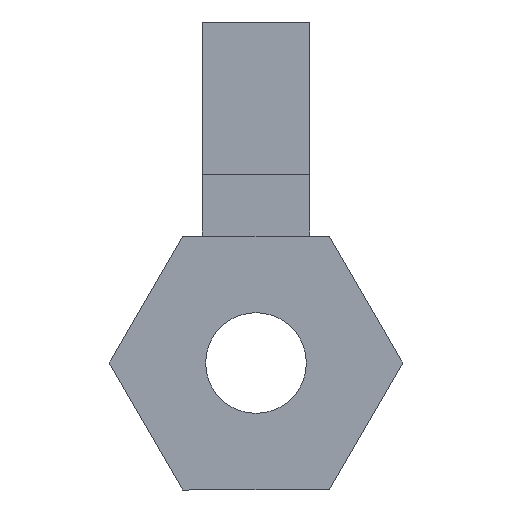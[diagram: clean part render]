
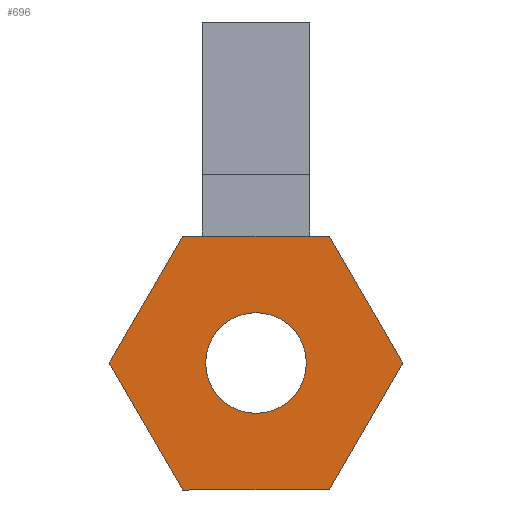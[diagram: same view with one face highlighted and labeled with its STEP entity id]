
A CAD part, left-side view. The second image highlights one B-rep face of the part: STEP entity #696.
In plain terms, the highlighted planar face has unit normal (-1, 0, 0).
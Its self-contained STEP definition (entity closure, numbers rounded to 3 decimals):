
#32 = PLANE('',#33);
#33 = AXIS2_PLACEMENT_3D('',#34,#35,#36);
#34 = CARTESIAN_POINT('',(0.,0.451,0.782));
#35 = DIRECTION('',(0.,0.,1.));
#36 = DIRECTION('',(0.,-1.,0.));
#141 = VERTEX_POINT('',#142);
#142 = CARTESIAN_POINT('',(0.,0.677,0.782));
#156 = PLANE('',#157);
#157 = AXIS2_PLACEMENT_3D('',#158,#159,#160);
#158 = CARTESIAN_POINT('',(0.,0.79,0.587));
#159 = DIRECTION('',(0.,0.866,0.5));
#160 = DIRECTION('',(0.,-0.5,0.866));
#168 = EDGE_CURVE('',#169,#141,#171,.T.);
#169 = VERTEX_POINT('',#170);
#170 = CARTESIAN_POINT('',(0.,0.226,0.782));
#171 = SURFACE_CURVE('',#172,(#176,#183),.PCURVE_S1.);
#172 = LINE('',#173,#174);
#173 = CARTESIAN_POINT('',(0.,0.226,0.782));
#174 = VECTOR('',#175,1.);
#175 = DIRECTION('',(0.,1.,0.));
#176 = PCURVE('',#32,#177);
#177 = DEFINITIONAL_REPRESENTATION('',(#178),#182);
#178 = LINE('',#179,#180);
#179 = CARTESIAN_POINT('',(0.226,0.));
#180 = VECTOR('',#181,1.);
#181 = DIRECTION('',(-1.,0.));
#182 = ( GEOMETRIC_REPRESENTATION_CONTEXT(2) 
PARAMETRIC_REPRESENTATION_CONTEXT() REPRESENTATION_CONTEXT('2D SPACE',''
  ) );
#183 = PCURVE('',#184,#189);
#184 = PLANE('',#185);
#185 = AXIS2_PLACEMENT_3D('',#186,#187,#188);
#186 = CARTESIAN_POINT('',(0.,0.451,0.391));
#187 = DIRECTION('',(1.,0.,0.));
#188 = DIRECTION('',(0.,0.,-1.));
#189 = DEFINITIONAL_REPRESENTATION('',(#190),#194);
#190 = LINE('',#191,#192);
#191 = CARTESIAN_POINT('',(-0.391,-0.226));
#192 = VECTOR('',#193,1.);
#193 = DIRECTION('',(0.,1.));
#194 = ( GEOMETRIC_REPRESENTATION_CONTEXT(2) 
PARAMETRIC_REPRESENTATION_CONTEXT() REPRESENTATION_CONTEXT('2D SPACE',''
  ) );
#212 = PLANE('',#213);
#213 = AXIS2_PLACEMENT_3D('',#214,#215,#216);
#214 = CARTESIAN_POINT('',(0.,0.113,0.587));
#215 = DIRECTION('',(0.,-0.866,0.5));
#216 = DIRECTION('',(0.,-0.5,-0.866));
#248 = EDGE_CURVE('',#249,#251,#253,.T.);
#249 = VERTEX_POINT('',#250);
#250 = CARTESIAN_POINT('',(0.,0.606,0.391));
#251 = VERTEX_POINT('',#252);
#252 = CARTESIAN_POINT('',(0.,0.296,0.391));
#253 = SURFACE_CURVE('',#254,(#259,#271),.PCURVE_S1.);
#254 = CIRCLE('',#255,0.155);
#255 = AXIS2_PLACEMENT_3D('',#256,#257,#258);
#256 = CARTESIAN_POINT('',(0.,0.451,0.391));
#257 = DIRECTION('',(1.,0.,0.));
#258 = DIRECTION('',(0.,-1.,0.));
#259 = PCURVE('',#260,#265);
#260 = CYLINDRICAL_SURFACE('',#261,0.155);
#261 = AXIS2_PLACEMENT_3D('',#262,#263,#264);
#262 = CARTESIAN_POINT('',(1.7,0.451,0.391));
#263 = DIRECTION('',(-1.,0.,0.));
#264 = DIRECTION('',(0.,-1.,0.));
#265 = DEFINITIONAL_REPRESENTATION('',(#266),#270);
#266 = LINE('',#267,#268);
#267 = CARTESIAN_POINT('',(6.283,1.7));
#268 = VECTOR('',#269,1.);
#269 = DIRECTION('',(-1.,0.));
#270 = ( GEOMETRIC_REPRESENTATION_CONTEXT(2) 
PARAMETRIC_REPRESENTATION_CONTEXT() REPRESENTATION_CONTEXT('2D SPACE',''
  ) );
#271 = PCURVE('',#184,#272);
#272 = DEFINITIONAL_REPRESENTATION('',(#273),#277);
#273 = CIRCLE('',#274,0.155);
#274 = AXIS2_PLACEMENT_2D('',#275,#276);
#275 = CARTESIAN_POINT('',(0.,0.));
#276 = DIRECTION('',(0.,-1.));
#277 = ( GEOMETRIC_REPRESENTATION_CONTEXT(2) 
PARAMETRIC_REPRESENTATION_CONTEXT() REPRESENTATION_CONTEXT('2D SPACE',''
  ) );
#329 = EDGE_CURVE('',#251,#249,#330,.T.);
#330 = SURFACE_CURVE('',#331,(#336,#343),.PCURVE_S1.);
#331 = CIRCLE('',#332,0.155);
#332 = AXIS2_PLACEMENT_3D('',#333,#334,#335);
#333 = CARTESIAN_POINT('',(0.,0.451,0.391));
#334 = DIRECTION('',(1.,0.,0.));
#335 = DIRECTION('',(0.,-1.,0.));
#336 = PCURVE('',#260,#337);
#337 = DEFINITIONAL_REPRESENTATION('',(#338),#342);
#338 = LINE('',#339,#340);
#339 = CARTESIAN_POINT('',(12.566,1.7));
#340 = VECTOR('',#341,1.);
#341 = DIRECTION('',(-1.,0.));
#342 = ( GEOMETRIC_REPRESENTATION_CONTEXT(2) 
PARAMETRIC_REPRESENTATION_CONTEXT() REPRESENTATION_CONTEXT('2D SPACE',''
  ) );
#343 = PCURVE('',#184,#344);
#344 = DEFINITIONAL_REPRESENTATION('',(#345),#349);
#345 = CIRCLE('',#346,0.155);
#346 = AXIS2_PLACEMENT_2D('',#347,#348);
#347 = CARTESIAN_POINT('',(0.,0.));
#348 = DIRECTION('',(0.,-1.));
#349 = ( GEOMETRIC_REPRESENTATION_CONTEXT(2) 
PARAMETRIC_REPRESENTATION_CONTEXT() REPRESENTATION_CONTEXT('2D SPACE',''
  ) );
#378 = EDGE_CURVE('',#379,#169,#381,.T.);
#379 = VERTEX_POINT('',#380);
#380 = CARTESIAN_POINT('',(0.,0.,0.391));
#381 = SURFACE_CURVE('',#382,(#386,#393),.PCURVE_S1.);
#382 = LINE('',#383,#384);
#383 = CARTESIAN_POINT('',(0.,0.,0.391));
#384 = VECTOR('',#385,1.);
#385 = DIRECTION('',(0.,0.5,0.866));
#386 = PCURVE('',#212,#387);
#387 = DEFINITIONAL_REPRESENTATION('',(#388),#392);
#388 = LINE('',#389,#390);
#389 = CARTESIAN_POINT('',(0.226,0.));
#390 = VECTOR('',#391,1.);
#391 = DIRECTION('',(-1.,0.));
#392 = ( GEOMETRIC_REPRESENTATION_CONTEXT(2) 
PARAMETRIC_REPRESENTATION_CONTEXT() REPRESENTATION_CONTEXT('2D SPACE',''
  ) );
#393 = PCURVE('',#184,#394);
#394 = DEFINITIONAL_REPRESENTATION('',(#395),#399);
#395 = LINE('',#396,#397);
#396 = CARTESIAN_POINT('',(0.,-0.451));
#397 = VECTOR('',#398,1.);
#398 = DIRECTION('',(-0.866,0.5));
#399 = ( GEOMETRIC_REPRESENTATION_CONTEXT(2) 
PARAMETRIC_REPRESENTATION_CONTEXT() REPRESENTATION_CONTEXT('2D SPACE',''
  ) );
#415 = PLANE('',#416);
#416 = AXIS2_PLACEMENT_3D('',#417,#418,#419);
#417 = CARTESIAN_POINT('',(0.,0.113,0.196));
#418 = DIRECTION('',(0.,-0.866,-0.5));
#419 = DIRECTION('',(0.,0.5,-0.866));
#454 = VERTEX_POINT('',#455);
#455 = CARTESIAN_POINT('',(0.,0.903,0.391));
#469 = PLANE('',#470);
#470 = AXIS2_PLACEMENT_3D('',#471,#472,#473);
#471 = CARTESIAN_POINT('',(0.,0.79,0.196));
#472 = DIRECTION('',(0.,0.866,-0.5));
#473 = DIRECTION('',(0.,0.5,0.866));
#481 = EDGE_CURVE('',#141,#454,#482,.T.);
#482 = SURFACE_CURVE('',#483,(#487,#494),.PCURVE_S1.);
#483 = LINE('',#484,#485);
#484 = CARTESIAN_POINT('',(0.,0.677,0.782));
#485 = VECTOR('',#486,1.);
#486 = DIRECTION('',(0.,0.5,-0.866));
#487 = PCURVE('',#156,#488);
#488 = DEFINITIONAL_REPRESENTATION('',(#489),#493);
#489 = LINE('',#490,#491);
#490 = CARTESIAN_POINT('',(0.226,0.));
#491 = VECTOR('',#492,1.);
#492 = DIRECTION('',(-1.,0.));
#493 = ( GEOMETRIC_REPRESENTATION_CONTEXT(2) 
PARAMETRIC_REPRESENTATION_CONTEXT() REPRESENTATION_CONTEXT('2D SPACE',''
  ) );
#494 = PCURVE('',#184,#495);
#495 = DEFINITIONAL_REPRESENTATION('',(#496),#500);
#496 = LINE('',#497,#498);
#497 = CARTESIAN_POINT('',(-0.391,0.226));
#498 = VECTOR('',#499,1.);
#499 = DIRECTION('',(0.866,0.5));
#500 = ( GEOMETRIC_REPRESENTATION_CONTEXT(2) 
PARAMETRIC_REPRESENTATION_CONTEXT() REPRESENTATION_CONTEXT('2D SPACE',''
  ) );
#530 = VERTEX_POINT('',#531);
#531 = CARTESIAN_POINT('',(0.,0.677,0.));
#545 = PLANE('',#546);
#546 = AXIS2_PLACEMENT_3D('',#547,#548,#549);
#547 = CARTESIAN_POINT('',(0.,0.451,0.));
#548 = DIRECTION('',(0.,0.,-1.));
#549 = DIRECTION('',(0.,1.,0.));
#557 = EDGE_CURVE('',#454,#530,#558,.T.);
#558 = SURFACE_CURVE('',#559,(#563,#570),.PCURVE_S1.);
#559 = LINE('',#560,#561);
#560 = CARTESIAN_POINT('',(0.,0.903,0.391));
#561 = VECTOR('',#562,1.);
#562 = DIRECTION('',(0.,-0.5,-0.866));
#563 = PCURVE('',#469,#564);
#564 = DEFINITIONAL_REPRESENTATION('',(#565),#569);
#565 = LINE('',#566,#567);
#566 = CARTESIAN_POINT('',(0.226,0.));
#567 = VECTOR('',#568,1.);
#568 = DIRECTION('',(-1.,0.));
#569 = ( GEOMETRIC_REPRESENTATION_CONTEXT(2) 
PARAMETRIC_REPRESENTATION_CONTEXT() REPRESENTATION_CONTEXT('2D SPACE',''
  ) );
#570 = PCURVE('',#184,#571);
#571 = DEFINITIONAL_REPRESENTATION('',(#572),#576);
#572 = LINE('',#573,#574);
#573 = CARTESIAN_POINT('',(0.,0.451));
#574 = VECTOR('',#575,1.);
#575 = DIRECTION('',(0.866,-0.5));
#576 = ( GEOMETRIC_REPRESENTATION_CONTEXT(2) 
PARAMETRIC_REPRESENTATION_CONTEXT() REPRESENTATION_CONTEXT('2D SPACE',''
  ) );
#606 = VERTEX_POINT('',#607);
#607 = CARTESIAN_POINT('',(0.,0.226,0.));
#628 = EDGE_CURVE('',#530,#606,#629,.T.);
#629 = SURFACE_CURVE('',#630,(#634,#641),.PCURVE_S1.);
#630 = LINE('',#631,#632);
#631 = CARTESIAN_POINT('',(0.,0.677,0.));
#632 = VECTOR('',#633,1.);
#633 = DIRECTION('',(0.,-1.,0.));
#634 = PCURVE('',#545,#635);
#635 = DEFINITIONAL_REPRESENTATION('',(#636),#640);
#636 = LINE('',#637,#638);
#637 = CARTESIAN_POINT('',(0.226,0.));
#638 = VECTOR('',#639,1.);
#639 = DIRECTION('',(-1.,0.));
#640 = ( GEOMETRIC_REPRESENTATION_CONTEXT(2) 
PARAMETRIC_REPRESENTATION_CONTEXT() REPRESENTATION_CONTEXT('2D SPACE',''
  ) );
#641 = PCURVE('',#184,#642);
#642 = DEFINITIONAL_REPRESENTATION('',(#643),#647);
#643 = LINE('',#644,#645);
#644 = CARTESIAN_POINT('',(0.391,0.226));
#645 = VECTOR('',#646,1.);
#646 = DIRECTION('',(0.,-1.));
#647 = ( GEOMETRIC_REPRESENTATION_CONTEXT(2) 
PARAMETRIC_REPRESENTATION_CONTEXT() REPRESENTATION_CONTEXT('2D SPACE',''
  ) );
#675 = EDGE_CURVE('',#606,#379,#676,.T.);
#676 = SURFACE_CURVE('',#677,(#681,#688),.PCURVE_S1.);
#677 = LINE('',#678,#679);
#678 = CARTESIAN_POINT('',(0.,0.226,0.));
#679 = VECTOR('',#680,1.);
#680 = DIRECTION('',(0.,-0.5,0.866));
#681 = PCURVE('',#415,#682);
#682 = DEFINITIONAL_REPRESENTATION('',(#683),#687);
#683 = LINE('',#684,#685);
#684 = CARTESIAN_POINT('',(0.226,0.));
#685 = VECTOR('',#686,1.);
#686 = DIRECTION('',(-1.,0.));
#687 = ( GEOMETRIC_REPRESENTATION_CONTEXT(2) 
PARAMETRIC_REPRESENTATION_CONTEXT() REPRESENTATION_CONTEXT('2D SPACE',''
  ) );
#688 = PCURVE('',#184,#689);
#689 = DEFINITIONAL_REPRESENTATION('',(#690),#694);
#690 = LINE('',#691,#692);
#691 = CARTESIAN_POINT('',(0.391,-0.226));
#692 = VECTOR('',#693,1.);
#693 = DIRECTION('',(-0.866,-0.5));
#694 = ( GEOMETRIC_REPRESENTATION_CONTEXT(2) 
PARAMETRIC_REPRESENTATION_CONTEXT() REPRESENTATION_CONTEXT('2D SPACE',''
  ) );
#696 = ADVANCED_FACE('',(#697,#701),#184,.F.);
#697 = FACE_BOUND('',#698,.T.);
#698 = EDGE_LOOP('',(#699,#700));
#699 = ORIENTED_EDGE('',*,*,#248,.T.);
#700 = ORIENTED_EDGE('',*,*,#329,.T.);
#701 = FACE_BOUND('',#702,.T.);
#702 = EDGE_LOOP('',(#703,#704,#705,#706,#707,#708));
#703 = ORIENTED_EDGE('',*,*,#675,.T.);
#704 = ORIENTED_EDGE('',*,*,#378,.T.);
#705 = ORIENTED_EDGE('',*,*,#168,.T.);
#706 = ORIENTED_EDGE('',*,*,#481,.T.);
#707 = ORIENTED_EDGE('',*,*,#557,.T.);
#708 = ORIENTED_EDGE('',*,*,#628,.T.);
